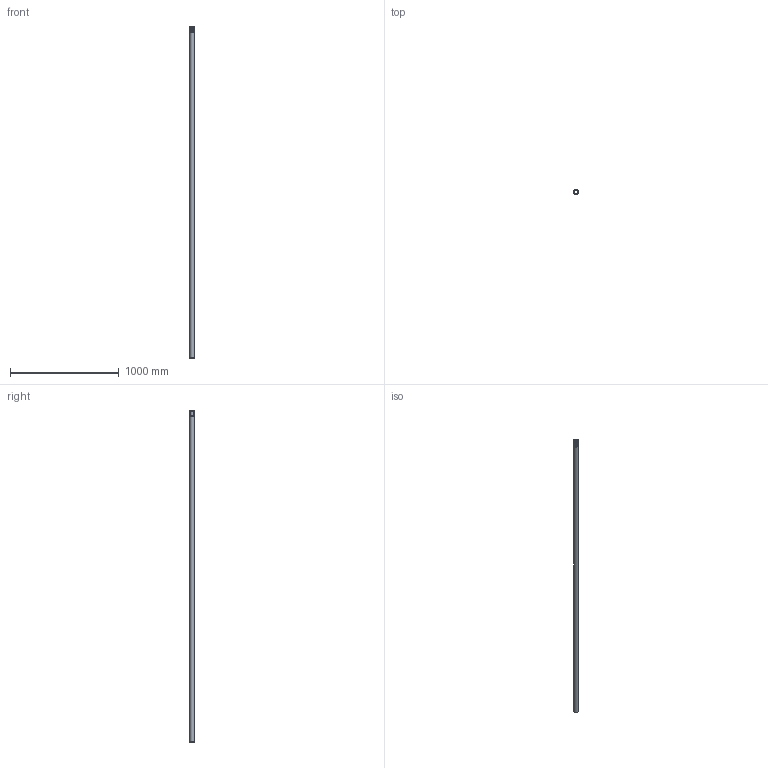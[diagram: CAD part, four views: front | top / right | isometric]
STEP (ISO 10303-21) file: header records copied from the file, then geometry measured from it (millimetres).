
FILE_DESCRIPTION(/* description */ (''),/* implementation_level */ '2;1');
FILE_NAME(/* name */ 'Z:\Geberit\Export\NewStep\390107.stp',/* time_stamp */ '2014-04-02T08:08:45+02:00',/* author */ ('ML'),/* organization */ (''),/* preprocessor_version */ 'ST-DEVELOPER v15.2',/* originating_system */ 'Autodesk Inventor 2014',/* authorisation */ '');
FILE_SCHEMA (('AUTOMOTIVE_DESIGN { 1 0 10303 214 3 1 1 }'));
Length unit declared in the file: millimetre
Products named in the file (3): 861416; 861581ohne; 390107
Bounding box: 53.5 x 53.5 x 3047.3 mm (x, y, z)
Volume: 737704.1 mm3; surface area: 738976.3 mm2
Topology: 2 solids, 2 shells, 47 faces, 104 edges, 71 vertices
Faces by surface type: torus 24, cylinder 11, plane 10, cone 2
Full cylindrical faces by diameter (mm): 36.15 x2, 40.15 x2, 40.8 x2, 42.8 x1, 44.8 x2, 49.5 x1, 53.5 x1
Entity records: 2003 total; most frequent: CARTESIAN_POINT 962, DIRECTION 182, ORIENTED_EDGE 174, AXIS2_PLACEMENT_3D 91, EDGE_CURVE 87, EDGE_LOOP 78, VERTEX_POINT 71, STYLED_ITEM 49
